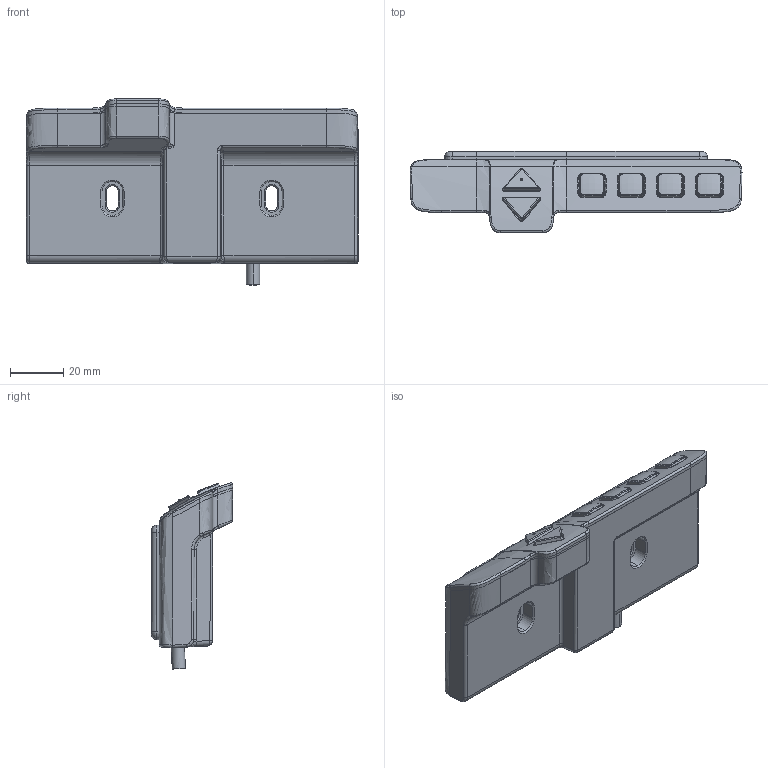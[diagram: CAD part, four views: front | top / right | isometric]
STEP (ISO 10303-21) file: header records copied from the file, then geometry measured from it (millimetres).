
FILE_DESCRIPTION (( 'STEP AP203' ), '1' );
FILE_NAME ('TDH11P-(3D²Õ¦X¥ó).STEP', '2018-01-31T09:29:34', ( '' ), ( '' ), 'SwSTEP 2.0', 'SolidWorks 2015', '' );
FILE_SCHEMA (( 'CONFIG_CONTROL_DESIGN' ));
Products named in the file (1): TDH11P-(3D組合件)
Bounding box: 125 x 30.65 x 70.08 mm (x, y, z)
Volume: 117534.1 mm3; surface area: 39354.9 mm2
Topology: 9 solids, 9 shells, 543 faces, 1304 edges, 780 vertices
Faces by surface type: bspline 228, cylinder 143, plane 128, cone 22, torus 12, sphere 10
Entity records: 35544 total; most frequent: CARTESIAN_POINT 24715, ORIENTED_EDGE 2590, DIRECTION 1704, EDGE_CURVE 1295, VERTEX_POINT 778, AXIS2_PLACEMENT_3D 632, EDGE_LOOP 571, FACE_OUTER_BOUND 543
